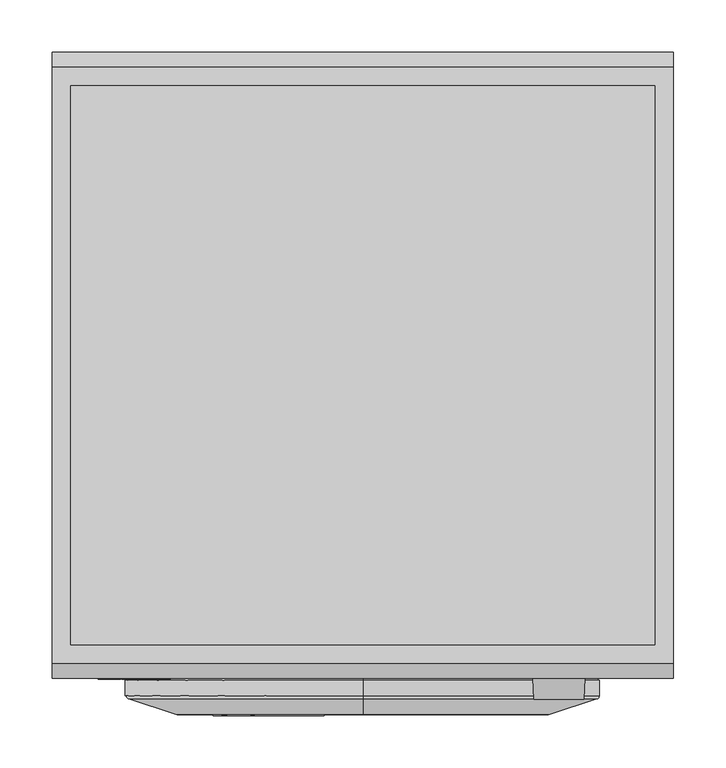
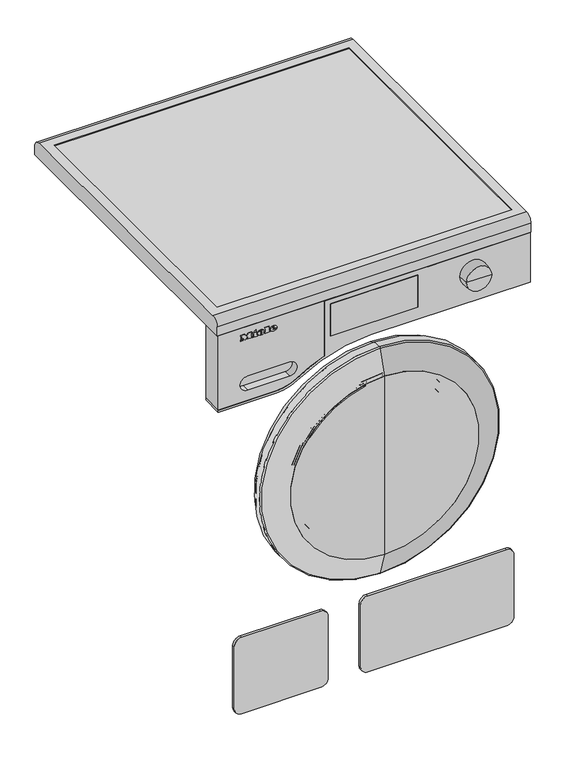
"""IFC4 building model written with IfcOpenShell, lengths in millimetres: proxy geometry, 12437440_A_WCB680WPS_LW : 11CB6803_A_12437440_WCB680WPS_LW."""

from ifc_helpers import new_model, si_unit, point, frame, frame_2d, origin, place, context, project, spatial, polyline, circle_curve, ellipse_curve, trimmed, segment, composite_curve, outline, extrude, source, transform, mapped, element, save
from ifc_brep_helpers import plane_surface, cylinder_surface, revolved_surface, extruded_surface, advanced_brep


def specialty_equipment_5d1bda56(model_context):
    return source(origin(), model_context, "Body", "SolidModel", [
        advanced_brep(
        [(-192.212, -601.0, 794.7018), (-192.212, -601.0, 795.8532), (-184.5854, -601.0, 795.8532), (-197.855, -601.0, 795.8532), (-194.72, -601.0, 792.0), (-184.7792, -601.0, 794.7018), (-188.222, -601.0, 794.7018), (-190.9352, -601.0, 793.425), (-192.212, -601.0, 797.3124), (-192.212, -601.0, 798.555), (-190.2626, -601.0, 798.555), (-190.2626, -601.0, 797.3124), (-192.212, -600.0, 794.7018), (-190.9352, -600.0, 793.425), (-188.222, -600.0, 794.7018), (-184.7792, -600.0, 794.7018), (-194.72, -600.0, 792.0), (-197.855, -600.0, 795.8532), (-184.5854, -600.0, 795.8532), (-192.212, -600.0, 795.8532), (-192.212, -600.0, 797.3124), (-190.2626, -600.0, 797.3124), (-190.2626, -600.0, 798.555), (-192.212, -600.0, 798.555)],
        [
            (0, 1),
            (1, 2),
            (2, 3, ellipse_curve(frame((-191.2202, -601.0, 795.8532), z_axis=(0.0, -1.0, 0.0), x_axis=(-1.0, 0.0, 0.0)), 6.6348, 5.4834)),
            (3, 4, circle_curve(frame((-193.4431378, -601.0, 796.2408), z_axis=(0.0, -1.0, 0.0), x_axis=(0.0, 0.0, -1.0)), 4.4288556)),
            (4, 5, circle_curve(frame((-191.3530192, -601.0, 799.2504), z_axis=(0.0, -1.0, 0.0), x_axis=(0.0, 0.0, -1.0)), 7.9940516)),
            (5, 6),
            (6, 7, circle_curve(frame((-190.3779412, -601.0, 795.762), z_axis=(0.0, 1.0, 0.0), x_axis=(0.0, 0.0, -1.0)), 2.4025208)),
            (7, 0, circle_curve(frame((-190.9352, -601.0, 794.7018), z_axis=(0.0, 1.0, 0.0), x_axis=(0.0, 0.0, -1.0)), 1.2768)),
            (8, 9),
            (9, 10, circle_curve(frame((-191.2373, -601.0, 798.555), z_axis=(0.0, 1.0, 0.0), x_axis=(0.0, 0.0, -1.0)), 0.9747)),
            (10, 11),
            (11, 8),
            (12, 13, circle_curve(frame((-190.9352, -600.0, 794.7018), z_axis=(0.0, -1.0, 0.0), x_axis=(0.0, 0.0, -1.0)), 1.2768)),
            (13, 14, circle_curve(frame((-190.3779412, -600.0, 795.762), z_axis=(0.0, -1.0, 0.0), x_axis=(0.0, 0.0, -1.0)), 2.4025208)),
            (14, 15),
            (15, 16, circle_curve(frame((-191.3530192, -600.0, 799.2504), z_axis=(0.0, 1.0, 0.0), x_axis=(0.0, 0.0, -1.0)), 7.9940516)),
            (16, 17, circle_curve(frame((-193.4431378, -600.0, 796.2408), z_axis=(0.0, 1.0, 0.0), x_axis=(0.0, 0.0, -1.0)), 4.4288556)),
            (17, 18, ellipse_curve(frame((-191.2202, -600.0, 795.8532), z_axis=(0.0, 1.0, 0.0), x_axis=(-1.0, 0.0, 0.0)), 6.6348, 5.4834)),
            (18, 19),
            (19, 12),
            (20, 21),
            (21, 22),
            (22, 23, circle_curve(frame((-191.2373, -600.0, 798.555), z_axis=(0.0, -1.0, 0.0), x_axis=(0.0, 0.0, -1.0)), 0.9747)),
            (23, 20),
            (0, 12),
            (19, 1),
            (18, 2),
            (5, 15),
            (14, 6),
            (17, 3),
            (13, 7),
            (16, 4),
            (8, 20),
            (23, 9),
            (22, 10),
            (21, 11),
        ],
        [
            plane_surface(frame((-192.212, -601.0, 795.8532), z_axis=(0.0, -1.0, 0.0), x_axis=(0.0, 0.0, 1.0))),
            plane_surface(frame((-192.212, -600.0, 795.8532), z_axis=(0.0, 1.0, 0.0), x_axis=(0.0, 0.0, -1.0))),
            plane_surface(frame((-192.212, -601.0, 794.7018), z_axis=(1.0, 0.0, 0.0), x_axis=(0.0, 1.0, 0.0))),
            plane_surface(frame((-192.212, -601.0, 795.8532), z_axis=(0.0, 0.0, -1.0), x_axis=(0.0, 1.0, 0.0))),
            plane_surface(frame((-184.7792, -601.0, 794.7018), z_axis=(0.0, 0.0, 1.0), x_axis=(0.0, 1.0, 0.0))),
            extruded_surface(trimmed(ellipse_curve(frame((-191.2202, -599.0, 795.8532), z_axis=(0.0, -1.0, 0.0), x_axis=(-1.0, 0.0, 0.0)), 6.6348, 5.4834), [point((-184.5854, -599.0, 795.8532))], [point((-197.855, -599.0, 795.8532))], True, "CARTESIAN"), (0.0, -1.0, 0.0), 1.0),
            revolved_surface(polyline([(-190.3779412, -600.0, 793.3594791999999), (-190.3779412, -601.0, 793.3594791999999)]), (-190.3779412, -600.0, 795.762), (0.0, 1.0, 0.0)),
            revolved_surface(polyline([(-190.9352, -600.0, 793.4250000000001), (-190.9352, -601.0, 793.4250000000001)]), (-190.9352, -600.0, 794.7018), (0.0, 1.0, 0.0)),
            cylinder_surface(frame((-193.4431378, -600.0, 796.2408), z_axis=(0.0, -1.0, 0.0), x_axis=(0.0, 0.0, -1.0)), 4.4288556),
            cylinder_surface(frame((-191.3530192, -600.0, 799.2504), z_axis=(0.0, -1.0, 0.0), x_axis=(0.0, 0.0, -1.0)), 7.9940516),
            plane_surface(frame((-192.212, -601.0, 797.3124), z_axis=(1.0, 0.0, 0.0), x_axis=(0.0, 1.0, 0.0))),
            revolved_surface(polyline([(-191.2373, -600.0, 797.5803), (-191.2373, -601.0, 797.5803)]), (-191.2373, -600.0, 798.555), (0.0, 1.0, 0.0)),
            plane_surface(frame((-190.2626, -601.0, 798.555), z_axis=(-1.0, 0.0, 0.0), x_axis=(0.0, 1.0, 0.0))),
            plane_surface(frame((-190.2626, -601.0, 797.3124), z_axis=(0.0, 0.0, 1.0), x_axis=(0.0, 1.0, 0.0))),
        ],
        [
            (0, [[1, 2, 3, 4, 5, 6, 7, 8], [9, 10, 11, 12]]),
            (1, [[13, 14, 15, 16, 17, 18, 19, 20], [21, 22, 23, 24]]),
            (2, [[-1, 25, -20, 26]]),
            (3, [[-2, -26, -19, 27]]),
            (4, [[-6, 28, -15, 29]]),
            (5, [[-3, -27, -18, 30]]),
            (6, [[-7, -29, -14, 31]]),
            (7, [[-8, -31, -13, -25]]),
            (8, [[-4, -30, -17, 32]]),
            (9, [[-5, -32, -16, -28]]),
            (10, [[-9, 33, -24, 34]]),
            (11, [[-10, -34, -23, 35]]),
            (12, [[-11, -35, -22, 36]]),
            (13, [[-12, -36, -21, -33]]),
        ],
    ),
        advanced_brep(
        [(-216.0038, -601.0, 794.7018), (-216.0038, -601.0, 795.8532), (-208.3772, -601.0, 795.8532), (-221.6468, -601.0, 795.8532), (-218.5118, -601.0, 792.0), (-208.571, -601.0, 794.7018), (-212.0138, -601.0, 794.7018), (-214.727, -601.0, 793.425), (-216.0038, -601.0, 797.3124), (-216.0038, -601.0, 798.555), (-214.0544, -601.0, 798.555), (-214.0544, -601.0, 797.3124), (-216.0038, -600.0, 794.7018), (-214.727, -600.0, 793.425), (-212.0138, -600.0, 794.7018), (-208.571, -600.0, 794.7018), (-218.5118, -600.0, 792.0), (-221.6468, -600.0, 795.8532), (-208.3772, -600.0, 795.8532), (-216.0038, -600.0, 795.8532), (-216.0038, -600.0, 797.3124), (-214.0544, -600.0, 797.3124), (-214.0544, -600.0, 798.555), (-216.0038, -600.0, 798.555)],
        [
            (0, 1),
            (1, 2),
            (2, 3, ellipse_curve(frame((-215.012, -601.0, 795.8532), z_axis=(0.0, -1.0, 0.0), x_axis=(-1.0, 0.0, 0.0)), 6.6348, 5.4834)),
            (3, 4, circle_curve(frame((-217.2349378, -601.0, 796.2408), z_axis=(0.0, -1.0, 0.0), x_axis=(0.0, 0.0, -1.0)), 4.4288556)),
            (4, 5, circle_curve(frame((-215.1448192, -601.0, 799.2504), z_axis=(0.0, -1.0, 0.0), x_axis=(0.0, 0.0, -1.0)), 7.9940516)),
            (5, 6),
            (6, 7, circle_curve(frame((-214.1697412, -601.0, 795.762), z_axis=(0.0, 1.0, 0.0), x_axis=(0.0, 0.0, -1.0)), 2.4025208)),
            (7, 0, circle_curve(frame((-214.727, -601.0, 794.7018), z_axis=(0.0, 1.0, 0.0), x_axis=(0.0, 0.0, -1.0)), 1.2768)),
            (8, 9),
            (9, 10, circle_curve(frame((-215.0291, -601.0, 798.555), z_axis=(0.0, 1.0, 0.0), x_axis=(0.0, 0.0, -1.0)), 0.9747)),
            (10, 11),
            (11, 8),
            (12, 13, circle_curve(frame((-214.727, -600.0, 794.7018), z_axis=(0.0, -1.0, 0.0), x_axis=(0.0, 0.0, -1.0)), 1.2768)),
            (13, 14, circle_curve(frame((-214.1697412, -600.0, 795.762), z_axis=(0.0, -1.0, 0.0), x_axis=(0.0, 0.0, -1.0)), 2.4025208)),
            (14, 15),
            (15, 16, circle_curve(frame((-215.1448192, -600.0, 799.2504), z_axis=(0.0, 1.0, 0.0), x_axis=(0.0, 0.0, -1.0)), 7.9940516)),
            (16, 17, circle_curve(frame((-217.2349378, -600.0, 796.2408), z_axis=(0.0, 1.0, 0.0), x_axis=(0.0, 0.0, -1.0)), 4.4288556)),
            (17, 18, ellipse_curve(frame((-215.012, -600.0, 795.8532), z_axis=(0.0, 1.0, 0.0), x_axis=(-1.0, 0.0, 0.0)), 6.6348, 5.4834)),
            (18, 19),
            (19, 12),
            (20, 21),
            (21, 22),
            (22, 23, circle_curve(frame((-215.0291, -600.0, 798.555), z_axis=(0.0, -1.0, 0.0), x_axis=(0.0, 0.0, -1.0)), 0.9747)),
            (23, 20),
            (0, 12),
            (19, 1),
            (18, 2),
            (5, 15),
            (14, 6),
            (17, 3),
            (13, 7),
            (16, 4),
            (8, 20),
            (23, 9),
            (22, 10),
            (21, 11),
        ],
        [
            plane_surface(frame((-216.0038, -601.0, 795.8532), z_axis=(0.0, -1.0, 0.0), x_axis=(0.0, 0.0, 1.0))),
            plane_surface(frame((-216.0038, -600.0, 795.8532), z_axis=(0.0, 1.0, 0.0), x_axis=(0.0, 0.0, -1.0))),
            plane_surface(frame((-216.0038, -601.0, 794.7018), z_axis=(1.0, 0.0, 0.0), x_axis=(0.0, 1.0, 0.0))),
            plane_surface(frame((-216.0038, -601.0, 795.8532), z_axis=(0.0, 0.0, -1.0), x_axis=(0.0, 1.0, 0.0))),
            plane_surface(frame((-208.571, -601.0, 794.7018), z_axis=(0.0, 0.0, 1.0), x_axis=(0.0, 1.0, 0.0))),
            extruded_surface(trimmed(ellipse_curve(frame((-215.012, -599.0, 795.8532), z_axis=(0.0, -1.0, 0.0), x_axis=(-1.0, 0.0, 0.0)), 6.6348, 5.4834), [point((-208.3772, -599.0, 795.8532))], [point((-221.6468, -599.0, 795.8532))], True, "CARTESIAN"), (0.0, -1.0, 0.0), 1.0),
            revolved_surface(polyline([(-214.1697412, -600.0, 793.3594791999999), (-214.1697412, -601.0, 793.3594791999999)]), (-214.1697412, -600.0, 795.762), (0.0, 1.0, 0.0)),
            revolved_surface(polyline([(-214.727, -600.0, 793.4250000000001), (-214.727, -601.0, 793.4250000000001)]), (-214.727, -600.0, 794.7018), (0.0, 1.0, 0.0)),
            cylinder_surface(frame((-217.2349378, -600.0, 796.2408), z_axis=(0.0, -1.0, 0.0), x_axis=(0.0, 0.0, -1.0)), 4.4288556),
            cylinder_surface(frame((-215.1448192, -600.0, 799.2504), z_axis=(0.0, -1.0, 0.0), x_axis=(0.0, 0.0, -1.0)), 7.9940516),
            plane_surface(frame((-216.0038, -601.0, 797.3124), z_axis=(1.0, 0.0, 0.0), x_axis=(0.0, 1.0, 0.0))),
            revolved_surface(polyline([(-215.0291, -600.0, 797.5803), (-215.0291, -601.0, 797.5803)]), (-215.0291, -600.0, 798.555), (0.0, 1.0, 0.0)),
            plane_surface(frame((-214.0544, -601.0, 798.555), z_axis=(-1.0, 0.0, 0.0), x_axis=(0.0, 1.0, 0.0))),
            plane_surface(frame((-214.0544, -601.0, 797.3124), z_axis=(0.0, 0.0, 1.0), x_axis=(0.0, 1.0, 0.0))),
        ],
        [
            (0, [[1, 2, 3, 4, 5, 6, 7, 8], [9, 10, 11, 12]]),
            (1, [[13, 14, 15, 16, 17, 18, 19, 20], [21, 22, 23, 24]]),
            (2, [[-1, 25, -20, 26]]),
            (3, [[-2, -26, -19, 27]]),
            (4, [[-6, 28, -15, 29]]),
            (5, [[-3, -27, -18, 30]]),
            (6, [[-7, -29, -14, 31]]),
            (7, [[-8, -31, -13, -25]]),
            (8, [[-4, -30, -17, 32]]),
            (9, [[-5, -32, -16, -28]]),
            (10, [[-9, 33, -24, 34]]),
            (11, [[-10, -34, -23, 35]]),
            (12, [[-11, -35, -22, 36]]),
            (13, [[-12, -36, -21, -33]]),
        ],
    ),
        extrude(outline(polyline([(802.7274, -228.464), (800.8806, -227.5976), (802.6818, -223.733), (804.5286, -224.588), (802.7274, -228.464)])), frame((0.0, -601.0, 0.0), z_axis=(0.0, 1.0, 0.0), x_axis=(0.0, 0.0, 1.0)), (0.0, 0.0, 1.0), 1.0),
        extrude(outline(polyline([(800.6298, -231.2798), (798.5892, -231.2798), (798.5892, -229.9232), (793.9152, -229.9232), (793.9152, -231.2798), (792.0, -231.2798), (792.0, -222.2852), (793.9152, -222.2852), (793.9152, -223.6076), (800.6298, -223.6076), (800.6298, -231.2798)])), frame((0.0, -601.0, 0.0), z_axis=(0.0, 1.0, 0.0), x_axis=(0.0, 0.0, 1.0)), (0.0, 0.0, 1.0), 1.0),
        extrude(outline(polyline([(801.5418, -207.7388), (801.5418, -206.3708), (793.9152, -206.3708), (793.9152, -207.7388), (792.0, -207.7388), (792.0, -198.4934), (793.9152, -198.4934), (793.9152, -199.8956), (803.4, -199.8956), (803.4, -207.7388), (801.5418, -207.7388)])), frame((0.0, -601.0, 0.0), z_axis=(0.0, 1.0, 0.0), x_axis=(0.0, 0.0, 1.0)), (0.0, 0.0, 1.0), 1.0),
        extrude(outline(polyline([(801.5418, -254.0), (801.5418, -252.6206), (793.9152, -252.6206), (793.9152, -254.0), (792.0, -254.0), (792.0, -248.984), (793.9152, -248.984), (793.9152, -250.352), (798.7429247, -250.352), (792.0, -245.2562), (798.9402223, -240.1376), (793.9152, -240.1376), (793.9152, -241.5398), (792.0, -241.5398), (792.0, -232.4426), (793.9152, -232.4426), (793.9152, -233.8904), (801.5418, -233.8904), (801.5418, -232.4426), (803.4, -232.4426), (803.4, -239.3852), (799.125, -242.714), (803.4, -246.0542), (803.4, -254.0), (801.5418, -254.0)])), frame((0.0, -601.0, 0.0), z_axis=(0.0, 1.0, 0.0), x_axis=(0.0, 0.0, 1.0)), (0.0, 0.0, 1.0), 1.0),
        extrude(outline(composite_curve([segment(trimmed(circle_curve(frame_2d((475.0, 0.0)), 179.0077488), [point((650.0572384, -37.3996979))], [point((581.8669772, -143.6078804))], False, "CARTESIAN"), True, "CONTINUOUS"), segment(polyline([(581.8669772, -143.6078804), (580.6729844, -142.0033925)]), True, "CONTINUOUS"), segment(trimmed(circle_curve(frame_2d((475.0, 0.0)), 177.0077488), [point((580.6729844, -142.0033925))], [point((648.1013763, -36.9818423))], True, "CARTESIAN"), True, "CONTINUOUS"), segment(polyline([(648.1013763, -36.9818423), (650.0572384, -37.3996979)]), True, "CONTINUOUS")], self_intersect=False)), frame((0.0, -636.0, 0.0), z_axis=(0.0, 1.0, 0.0), x_axis=(0.0, 0.0, 1.0)), (0.0, 0.0, 1.0), 1.0),
        advanced_brep(
        [(0.0, -635.0, 296.0), (0.0, -635.0, 654.0), (0.0, -630.9005671, 650.4364173), (0.0, -630.9005671, 299.5635827), (0.0, -635.0, 475.0), (0.0, -589.0, 326.0), (0.0, -589.0, 624.0), (0.0, -589.0, 475.0), (0.0, -592.0, 326.0), (0.0, -592.0, 624.0), (0.0, -592.0, 313.0), (0.0, -592.0, 637.0), (0.0, -610.8709778, 313.0), (0.0, -610.8709778, 637.0), (0.0, -628.93239, 297.2994539), (0.0, -628.93239, 652.7005461)],
        [
            (0, 1, circle_curve(frame((0.0, -635.0, 475.0), z_axis=(0.0, 1.0, 0.0), x_axis=(0.0, 0.0, 1.0)), 179.0)),
            (1, 2),
            (2, 3, circle_curve(frame((0.0, -630.9005671, 475.0), z_axis=(0.0, -1.0, 0.0), x_axis=(0.0, 0.0, 1.0)), 175.4364173)),
            (3, 0),
            (1, 0, circle_curve(frame((0.0, -635.0, 475.0), z_axis=(0.0, 1.0, 0.0), x_axis=(0.0, 0.0, 1.0)), 179.0)),
            (3, 2, circle_curve(frame((0.0, -630.9005671, 475.0), z_axis=(0.0, -1.0, 0.0), x_axis=(0.0, 0.0, 1.0)), 175.4364173)),
            (4, 1),
            (0, 4),
            (5, 6, circle_curve(frame((0.0, -589.0, 475.0), z_axis=(0.0, 1.0, 0.0), x_axis=(0.0, 0.0, 1.0)), 149.0)),
            (6, 7),
            (7, 5),
            (6, 5, circle_curve(frame((0.0, -589.0, 475.0), z_axis=(0.0, 1.0, 0.0), x_axis=(0.0, 0.0, 1.0)), 149.0)),
            (8, 9, circle_curve(frame((0.0, -592.0, 475.0), z_axis=(0.0, 1.0, 0.0), x_axis=(0.0, 0.0, 1.0)), 149.0)),
            (9, 6),
            (5, 8),
            (9, 8, circle_curve(frame((0.0, -592.0, 475.0), z_axis=(0.0, 1.0, 0.0), x_axis=(0.0, 0.0, 1.0)), 149.0)),
            (10, 11, circle_curve(frame((0.0, -592.0, 475.0), z_axis=(0.0, 1.0, 0.0), x_axis=(0.0, 0.0, 1.0)), 162.0)),
            (11, 9),
            (8, 10),
            (11, 10, circle_curve(frame((0.0, -592.0, 475.0), z_axis=(0.0, 1.0, 0.0), x_axis=(0.0, 0.0, 1.0)), 162.0)),
            (12, 13, circle_curve(frame((0.0, -610.8709778, 475.0), z_axis=(0.0, 1.0, 0.0), x_axis=(0.0, 0.0, 1.0)), 162.0)),
            (13, 11),
            (10, 12),
            (13, 12, circle_curve(frame((0.0, -610.8709778, 475.0), z_axis=(0.0, 1.0, 0.0), x_axis=(0.0, 0.0, 1.0)), 162.0)),
            (14, 15, circle_curve(frame((0.0, -628.93239, 475.0), z_axis=(0.0, 1.0, 0.0), x_axis=(0.0, 0.0, 1.0)), 177.7005461)),
            (15, 13),
            (12, 14),
            (15, 14, circle_curve(frame((0.0, -628.93239, 475.0), z_axis=(0.0, 1.0, 0.0), x_axis=(0.0, 0.0, 1.0)), 177.7005461)),
            (2, 15),
            (14, 3),
        ],
        [
            revolved_surface(polyline([(0.0, -630.9005671, 650.4364173), (0.0, -635.0, 654.0)]), (0.0, -2342.7556811, 475.0), (0.0, -1.0, 0.0)),
            plane_surface(frame((0.0, -635.0, 475.0), z_axis=(0.0, -1.0, 0.0), x_axis=(0.0, 0.0, 1.0))),
            plane_surface(frame((0.0, -589.0, 475.0), z_axis=(0.0, 1.0, 0.0), x_axis=(0.0, 0.0, 1.0))),
            cylinder_surface(frame((0.0, -2342.7556811, 475.0), z_axis=(0.0, -1.0, 0.0), x_axis=(0.0, 0.0, 1.0)), 149.0),
            plane_surface(frame((0.0, -592.0, 475.0), z_axis=(0.0, 1.0, 0.0), x_axis=(0.0, 0.0, 1.0))),
            cylinder_surface(frame((0.0, -2342.7556811, 475.0), z_axis=(0.0, -1.0, 0.0), x_axis=(0.0, 0.0, 1.0)), 162.0),
            revolved_surface(polyline([(0.0, -610.8709778, 637.0), (0.0, -628.93239, 652.7005461)]), (0.0, -2342.7556811, 475.0), (0.0, -1.0, 0.0)),
            revolved_surface(polyline([(0.0, -628.93239, 652.7005461), (0.0, -630.9005671, 650.4364173)]), (0.0, -2342.7556811, 475.0), (0.0, -1.0, 0.0)),
        ],
        [
            (0, [[1, 2, 3, 4]]),
            (0, [[5, -4, 6, -2]]),
            (1, [[7, -1, 8]]),
            (1, [[-8, -5, -7]]),
            (2, [[9, 10, 11]]),
            (2, [[12, -11, -10]]),
            (3, [[13, 14, -9, 15]]),
            (3, [[16, -15, -12, -14]]),
            (4, [[17, 18, -13, 19]]),
            (4, [[20, -19, -16, -18]]),
            (5, [[21, 22, -17, 23]]),
            (5, [[24, -23, -20, -22]]),
            (6, [[25, 26, -21, 27]]),
            (6, [[28, -27, -24, -26]]),
            (7, [[-3, 29, -25, 30]]),
            (7, [[-6, -30, -28, -29]]),
        ],
    ),
        advanced_brep(
        [(0.0, -589.0, 254.0), (0.0, -589.0, 696.0), (0.0, -589.0, 624.0), (0.0, -589.0, 326.0), (0.0, -602.0, 248.0), (0.0, -602.0, 702.0), (0.0, -602.0, 313.0), (0.0, -602.0, 637.0), (0.0, -592.0, 313.0), (0.0, -592.0, 637.0), (0.0, -592.0, 326.0), (0.0, -592.0, 624.0)],
        [
            (0, 1, circle_curve(frame((0.0, -589.0, 475.0), z_axis=(0.0, 1.0, 0.0), x_axis=(0.0, 0.0, 1.0)), 221.0)),
            (1, 2),
            (2, 3, circle_curve(frame((0.0, -589.0, 475.0), z_axis=(0.0, -1.0, 0.0), x_axis=(0.0, 0.0, 1.0)), 149.0)),
            (3, 0),
            (1, 0, circle_curve(frame((0.0, -589.0, 475.0), z_axis=(0.0, 1.0, 0.0), x_axis=(0.0, 0.0, 1.0)), 221.0)),
            (3, 2, circle_curve(frame((0.0, -589.0, 475.0), z_axis=(0.0, -1.0, 0.0), x_axis=(0.0, 0.0, 1.0)), 149.0)),
            (4, 5, circle_curve(frame((0.0, -602.0, 475.0), z_axis=(0.0, 1.0, 0.0), x_axis=(0.0, 0.0, 1.0)), 227.0)),
            (5, 1),
            (0, 4),
            (5, 4, circle_curve(frame((0.0, -602.0, 475.0), z_axis=(0.0, 1.0, 0.0), x_axis=(0.0, 0.0, 1.0)), 227.0)),
            (6, 7, circle_curve(frame((0.0, -602.0, 475.0), z_axis=(0.0, 1.0, 0.0), x_axis=(0.0, 0.0, 1.0)), 162.0)),
            (7, 5),
            (4, 6),
            (7, 6, circle_curve(frame((0.0, -602.0, 475.0), z_axis=(0.0, 1.0, 0.0), x_axis=(0.0, 0.0, 1.0)), 162.0)),
            (8, 9, circle_curve(frame((0.0, -592.0, 475.0), z_axis=(0.0, 1.0, 0.0), x_axis=(0.0, 0.0, 1.0)), 162.0)),
            (9, 7),
            (6, 8),
            (9, 8, circle_curve(frame((0.0, -592.0, 475.0), z_axis=(0.0, 1.0, 0.0), x_axis=(0.0, 0.0, 1.0)), 162.0)),
            (10, 11, circle_curve(frame((0.0, -592.0, 475.0), z_axis=(0.0, 1.0, 0.0), x_axis=(0.0, 0.0, 1.0)), 149.0)),
            (11, 9),
            (8, 10),
            (11, 10, circle_curve(frame((0.0, -592.0, 475.0), z_axis=(0.0, 1.0, 0.0), x_axis=(0.0, 0.0, 1.0)), 149.0)),
            (2, 11),
            (10, 3),
        ],
        [
            plane_surface(frame((0.0, -589.0, 475.0), z_axis=(0.0, 1.0, 0.0), x_axis=(0.0, 0.0, 1.0))),
            revolved_surface(polyline([(0.0, -589.0, 696.0), (0.0, -602.0, 702.0)]), (0.0, -2342.7556811, 475.0), (0.0, -1.0, 0.0)),
            plane_surface(frame((0.0, -602.0, 475.0), z_axis=(0.0, -1.0, 0.0), x_axis=(0.0, 0.0, 1.0))),
            revolved_surface(polyline([(0.0, -602.0, 637.0), (0.0, -592.0, 637.0)]), (0.0, -2342.7556811, 475.0), (0.0, -1.0, 0.0)),
            plane_surface(frame((0.0, -592.0, 475.0), z_axis=(0.0, -1.0, 0.0), x_axis=(0.0, 0.0, 1.0))),
            revolved_surface(polyline([(0.0, -592.0, 624.0), (0.0, -589.0, 624.0)]), (0.0, -2342.7556811, 475.0), (0.0, -1.0, 0.0)),
        ],
        [
            (0, [[1, 2, 3, 4]]),
            (0, [[5, -4, 6, -2]]),
            (1, [[7, 8, -1, 9]]),
            (1, [[10, -9, -5, -8]]),
            (2, [[11, 12, -7, 13]]),
            (2, [[14, -13, -10, -12]]),
            (3, [[15, 16, -11, 17]]),
            (3, [[18, -17, -14, -16]]),
            (4, [[19, 20, -15, 21]]),
            (4, [[22, -21, -18, -20]]),
            (5, [[-3, 23, -19, 24]]),
            (5, [[-6, -24, -22, -23]]),
        ],
    ),
        advanced_brep(
        [(0.0, -628.93239, 297.2994539), (0.0, -628.93239, 652.7005461), (0.0, -626.9642129, 654.9646748), (0.0, -626.9642129, 295.0353252), (0.0, -610.8709778, 313.0), (0.0, -610.8709778, 637.0), (0.0, -602.0, 313.0), (0.0, -602.0, 637.0), (0.0, -609.7493238, 640.0), (0.0, -609.7493238, 310.0), (0.0, -602.0, 310.0), (0.0, -602.0, 640.0)],
        [
            (0, 1, circle_curve(frame((0.0, -628.93239, 475.0), z_axis=(0.0, 1.0, 0.0), x_axis=(0.0, 0.0, 1.0)), 177.7005461)),
            (1, 2),
            (2, 3, circle_curve(frame((0.0, -626.9642129, 475.0), z_axis=(0.0, -1.0, 0.0), x_axis=(0.0, 0.0, 1.0)), 179.9646748)),
            (3, 0),
            (1, 0, circle_curve(frame((0.0, -628.93239, 475.0), z_axis=(0.0, 1.0, 0.0), x_axis=(0.0, 0.0, 1.0)), 177.7005461)),
            (3, 2, circle_curve(frame((0.0, -626.9642129, 475.0), z_axis=(0.0, -1.0, 0.0), x_axis=(0.0, 0.0, 1.0)), 179.9646748)),
            (4, 5, circle_curve(frame((0.0, -610.8709778, 475.0), z_axis=(0.0, 1.0, 0.0), x_axis=(0.0, 0.0, 1.0)), 162.0)),
            (5, 1),
            (0, 4),
            (5, 4, circle_curve(frame((0.0, -610.8709778, 475.0), z_axis=(0.0, 1.0, 0.0), x_axis=(0.0, 0.0, 1.0)), 162.0)),
            (6, 7, circle_curve(frame((0.0, -602.0, 475.0), z_axis=(0.0, 1.0, 0.0), x_axis=(0.0, 0.0, 1.0)), 162.0)),
            (7, 5),
            (4, 6),
            (7, 6, circle_curve(frame((0.0, -602.0, 475.0), z_axis=(0.0, 1.0, 0.0), x_axis=(0.0, 0.0, 1.0)), 162.0)),
            (2, 8),
            (8, 9, circle_curve(frame((0.0, -609.7493238, 475.0), z_axis=(0.0, -1.0, 0.0), x_axis=(0.0, 0.0, 1.0)), 165.0)),
            (9, 3),
            (9, 8, circle_curve(frame((0.0, -609.7493238, 475.0), z_axis=(0.0, -1.0, 0.0), x_axis=(0.0, 0.0, 1.0)), 165.0)),
            (10, 11, circle_curve(frame((0.0, -602.0, 475.0), z_axis=(0.0, 1.0, 0.0), x_axis=(0.0, 0.0, 1.0)), 165.0)),
            (11, 7),
            (6, 10),
            (11, 10, circle_curve(frame((0.0, -602.0, 475.0), z_axis=(0.0, 1.0, 0.0), x_axis=(0.0, 0.0, 1.0)), 165.0)),
            (8, 11),
            (10, 9),
        ],
        [
            revolved_surface(polyline([(0.0, -626.9642129, 654.9646748), (0.0, -628.93239, 652.7005461)]), (0.0, -2342.7556811, 475.0), (0.0, -1.0, 0.0)),
            revolved_surface(polyline([(0.0, -628.93239, 652.7005461), (0.0, -610.8709778, 637.0)]), (0.0, -2342.7556811, 475.0), (0.0, -1.0, 0.0)),
            revolved_surface(polyline([(0.0, -610.8709778, 637.0), (0.0, -602.0, 637.0)]), (0.0, -2342.7556811, 475.0), (0.0, -1.0, 0.0)),
            revolved_surface(polyline([(0.0, -609.7493238, 640.0), (0.0, -626.9642129, 654.9646748)]), (0.0, -2342.7556811, 475.0), (0.0, -1.0, 0.0)),
            plane_surface(frame((0.0, -602.0, 475.0), z_axis=(0.0, 1.0, 0.0), x_axis=(0.0, 0.0, 1.0))),
            cylinder_surface(frame((0.0, -2342.7556811, 475.0), z_axis=(0.0, -1.0, 0.0), x_axis=(0.0, 0.0, 1.0)), 165.0),
        ],
        [
            (0, [[1, 2, 3, 4]]),
            (0, [[5, -4, 6, -2]]),
            (1, [[7, 8, -1, 9]]),
            (1, [[10, -9, -5, -8]]),
            (2, [[11, 12, -7, 13]]),
            (2, [[14, -13, -10, -12]]),
            (3, [[-3, 15, 16, 17]]),
            (3, [[-6, -17, 18, -15]]),
            (4, [[19, 20, -11, 21]]),
            (4, [[22, -21, -14, -20]]),
            (5, [[-16, 23, -19, 24]]),
            (5, [[-18, -24, -22, -23]]),
        ],
    ),
        advanced_brep(
        [(0.0, -616.8993073, 247.0), (0.0, -616.8993073, 703.0), (0.0, -602.0, 703.0), (0.0, -602.0, 247.0), (0.0, -619.7524768, 249.072949), (0.0, -619.7524768, 700.927051), (0.0, -635.0, 296.0), (0.0, -635.0, 654.0), (0.0, -630.9005671, 299.5635827), (0.0, -630.9005671, 650.4364173), (0.0, -626.9642129, 295.0353252), (0.0, -626.9642129, 654.9646748), (0.0, -609.7493238, 310.0), (0.0, -609.7493238, 640.0), (0.0, -602.0, 640.0), (0.0, -602.0, 310.0)],
        [
            (0, 1, circle_curve(frame((0.0, -616.8993073, 475.0), z_axis=(0.0, 1.0, 0.0), x_axis=(0.0, 0.0, 1.0)), 228.0)),
            (1, 2),
            (2, 3, circle_curve(frame((0.0, -602.0, 475.0), z_axis=(0.0, -1.0, 0.0), x_axis=(0.0, 0.0, 1.0)), 228.0)),
            (3, 0),
            (1, 0, circle_curve(frame((0.0, -616.8993073, 475.0), z_axis=(0.0, 1.0, 0.0), x_axis=(0.0, 0.0, 1.0)), 228.0)),
            (3, 2, circle_curve(frame((0.0, -602.0, 475.0), z_axis=(0.0, -1.0, 0.0), x_axis=(0.0, 0.0, 1.0)), 228.0)),
            (4, 5, circle_curve(frame((0.0, -619.7524768, 475.0), z_axis=(0.0, 1.0, 0.0), x_axis=(0.0, 0.0, 1.0)), 225.927051)),
            (5, 1, circle_curve(frame((0.0, -616.8993073, 700.0), z_axis=(-1.0, 0.0, 0.0), x_axis=(0.0, 1.0, 0.0)), 3.0)),
            (0, 4, circle_curve(frame((0.0, -616.8993073, 250.0), z_axis=(-1.0, 0.0, 0.0), x_axis=(0.0, 1.0, 0.0)), 3.0)),
            (5, 4, circle_curve(frame((0.0, -619.7524768, 475.0), z_axis=(0.0, 1.0, 0.0), x_axis=(0.0, 0.0, 1.0)), 225.927051)),
            (6, 7, circle_curve(frame((0.0, -635.0, 475.0), z_axis=(0.0, 1.0, 0.0), x_axis=(0.0, 0.0, 1.0)), 179.0)),
            (7, 5),
            (4, 6),
            (7, 6, circle_curve(frame((0.0, -635.0, 475.0), z_axis=(0.0, 1.0, 0.0), x_axis=(0.0, 0.0, 1.0)), 179.0)),
            (8, 9, circle_curve(frame((0.0, -630.9005671, 475.0), z_axis=(0.0, 1.0, 0.0), x_axis=(0.0, 0.0, 1.0)), 175.4364173)),
            (9, 7),
            (6, 8),
            (9, 8, circle_curve(frame((0.0, -630.9005671, 475.0), z_axis=(0.0, 1.0, 0.0), x_axis=(0.0, 0.0, 1.0)), 175.4364173)),
            (10, 11, circle_curve(frame((0.0, -626.9642129, 475.0), z_axis=(0.0, 1.0, 0.0), x_axis=(0.0, 0.0, 1.0)), 179.9646748)),
            (11, 9),
            (8, 10),
            (11, 10, circle_curve(frame((0.0, -626.9642129, 475.0), z_axis=(0.0, 1.0, 0.0), x_axis=(0.0, 0.0, 1.0)), 179.9646748)),
            (12, 13, circle_curve(frame((0.0, -609.7493238, 475.0), z_axis=(0.0, 1.0, 0.0), x_axis=(0.0, 0.0, 1.0)), 165.0)),
            (13, 11),
            (10, 12),
            (13, 12, circle_curve(frame((0.0, -609.7493238, 475.0), z_axis=(0.0, 1.0, 0.0), x_axis=(0.0, 0.0, 1.0)), 165.0)),
            (2, 14),
            (14, 15, circle_curve(frame((0.0, -602.0, 475.0), z_axis=(0.0, -1.0, 0.0), x_axis=(0.0, 0.0, 1.0)), 165.0)),
            (15, 3),
            (15, 14, circle_curve(frame((0.0, -602.0, 475.0), z_axis=(0.0, -1.0, 0.0), x_axis=(0.0, 0.0, 1.0)), 165.0)),
            (14, 13),
            (12, 15),
        ],
        [
            cylinder_surface(frame((0.0, -2342.7556811, 475.0), z_axis=(0.0, -1.0, 0.0), x_axis=(0.0, 0.0, 1.0)), 228.0),
            revolved_surface(trimmed(ellipse_curve(frame((0.0, -616.8993073, 700.0), z_axis=(1.0, 0.0, 0.0), x_axis=(0.0, 1.0, 0.0)), 3.0, 3.0), [point((0.0, -616.8993073, 703.0))], [point((0.0, -619.7524768, 700.927051))], True, "CARTESIAN"), (0.0, -2342.7556811, 475.0), (0.0, -1.0, 0.0)),
            revolved_surface(polyline([(0.0, -619.7524768, 700.927051), (0.0, -635.0, 654.0)]), (0.0, -2342.7556811, 475.0), (0.0, -1.0, 0.0)),
            revolved_surface(polyline([(0.0, -635.0, 654.0), (0.0, -630.9005671, 650.4364173)]), (0.0, -2342.7556811, 475.0), (0.0, -1.0, 0.0)),
            revolved_surface(polyline([(0.0, -630.9005671, 650.4364173), (0.0, -626.9642129, 654.9646748)]), (0.0, -2342.7556811, 475.0), (0.0, -1.0, 0.0)),
            revolved_surface(polyline([(0.0, -626.9642129, 654.9646748), (0.0, -609.7493238, 640.0)]), (0.0, -2342.7556811, 475.0), (0.0, -1.0, 0.0)),
            plane_surface(frame((0.0, -602.0, 475.0), z_axis=(0.0, 1.0, 0.0), x_axis=(0.0, 0.0, 1.0))),
            revolved_surface(polyline([(0.0, -609.7493238, 640.0), (0.0, -602.0, 640.0)]), (0.0, -2342.7556811, 475.0), (0.0, -1.0, 0.0)),
        ],
        [
            (0, [[1, 2, 3, 4]]),
            (0, [[5, -4, 6, -2]]),
            (1, [[7, 8, -1, 9]]),
            (1, [[10, -9, -5, -8]]),
            (2, [[11, 12, -7, 13]]),
            (2, [[14, -13, -10, -12]]),
            (3, [[15, 16, -11, 17]]),
            (3, [[18, -17, -14, -16]]),
            (4, [[19, 20, -15, 21]]),
            (4, [[22, -21, -18, -20]]),
            (5, [[23, 24, -19, 25]]),
            (5, [[26, -25, -22, -24]]),
            (6, [[-3, 27, 28, 29]]),
            (6, [[-6, -29, 30, -27]]),
            (7, [[-28, 31, -23, 32]]),
            (7, [[-30, -32, -26, -31]]),
        ],
    ),
        advanced_brep(
        [(188.0, -600.0, 775.0), (213.0, -600.0, 775.0), (163.0, -600.0, 775.0), (164.0481556, -620.0, 775.0), (211.9518444, -620.0, 775.0), (188.0, -620.0, 775.0)],
        [
            (0, 1),
            (1, 2, circle_curve(frame((188.0, -600.0, 775.0), z_axis=(0.0, 1.0, 0.0), x_axis=(1.0, 0.0, 0.0)), 25.0)),
            (2, 0),
            (2, 1, circle_curve(frame((188.0, -600.0, 775.0), z_axis=(0.0, 1.0, 0.0), x_axis=(1.0, 0.0, 0.0)), 25.0)),
            (3, 4, circle_curve(frame((188.0, -620.0, 775.0), z_axis=(0.0, -1.0, 0.0), x_axis=(1.0, 0.0, 0.0)), 23.9518444)),
            (4, 5),
            (5, 3),
            (4, 3, circle_curve(frame((188.0, -620.0, 775.0), z_axis=(0.0, -1.0, 0.0), x_axis=(1.0, 0.0, 0.0)), 23.9518444)),
            (1, 4),
            (3, 2),
        ],
        [
            plane_surface(frame((188.0, -600.0, 775.0), z_axis=(0.0, 1.0, 0.0), x_axis=(1.0, 0.0, 0.0))),
            plane_surface(frame((188.0, -620.0, 775.0), z_axis=(0.0, -1.0, 0.0), x_axis=(1.0, 0.0, 0.0))),
            revolved_surface(polyline([(211.9518444, -620.0, 775.0), (213.0, -600.0, 775.0)]), (188.0, -429.2290526, 775.0), (0.0, 1.0, 0.0)),
        ],
        [
            (0, [[1, 2, 3]]),
            (0, [[-3, 4, -1]]),
            (1, [[5, 6, 7]]),
            (1, [[8, -7, -6]]),
            (2, [[-2, 9, -5, 10]]),
            (2, [[-4, -10, -8, -9]]),
        ],
    ),
        advanced_brep(
        [(298.0, -585.5, 850.0), (298.0, -600.0, 835.5), (298.0, -600.0, 818.0), (298.0, 0.0, 818.0), (298.0, 0.0, 835.5), (298.0, -14.5, 850.0), (-298.0, -585.5, 850.0), (-298.0, -14.5, 850.0), (-298.0, 0.0, 835.5), (-298.0, 0.0, 818.0), (-298.0, -600.0, 818.0), (-298.0, -600.0, 835.5), (-280.0, -32.0, 850.0), (280.0, -32.0, 850.0), (280.0, -568.0, 850.0), (-280.0, -568.0, 850.0), (280.0, -32.0, 848.0), (-280.0, -32.0, 848.0), (-280.0, -568.0, 848.0), (280.0, -568.0, 848.0)],
        [
            (0, 1, circle_curve(frame((298.0, -585.5, 835.5), z_axis=(1.0, 0.0, 0.0), x_axis=(0.0, 0.0, -1.0)), 14.5)),
            (1, 2),
            (2, 3),
            (3, 4),
            (4, 5, circle_curve(frame((298.0, -14.5, 835.5), z_axis=(1.0, 0.0, 0.0), x_axis=(0.0, 0.0, -1.0)), 14.5)),
            (5, 0),
            (6, 7),
            (7, 8, circle_curve(frame((-298.0, -14.5, 835.5), z_axis=(-1.0, 0.0, 0.0), x_axis=(0.0, 0.0, -1.0)), 14.5)),
            (8, 9),
            (9, 10),
            (10, 11),
            (11, 6, circle_curve(frame((-298.0, -585.5, 835.5), z_axis=(-1.0, 0.0, 0.0), x_axis=(0.0, 0.0, -1.0)), 14.5)),
            (5, 7),
            (6, 0),
            (12, 13),
            (13, 14),
            (14, 15),
            (15, 12),
            (4, 8),
            (3, 9),
            (2, 10),
            (1, 11),
            (16, 17),
            (17, 18),
            (18, 19),
            (19, 16),
            (16, 13),
            (12, 17),
            (15, 18),
            (14, 19),
        ],
        [
            plane_surface(frame((298.0, -585.5, 850.0), z_axis=(1.0, 0.0, 0.0), x_axis=(0.0, -1.0, 0.0))),
            plane_surface(frame((-298.0, -585.5, 850.0), z_axis=(-1.0, 0.0, 0.0), x_axis=(0.0, 1.0, 0.0))),
            plane_surface(frame((-298.0, -585.5, 850.0), z_axis=(0.0, 0.0, 1.0), x_axis=(1.0, 0.0, 0.0))),
            cylinder_surface(frame((298.0, -14.5, 835.5), z_axis=(-1.0, 0.0, 0.0), x_axis=(0.0, 0.0, -1.0)), 14.5),
            plane_surface(frame((-298.0, 0.0, 835.5), z_axis=(0.0, 1.0, 0.0), x_axis=(1.0, 0.0, 0.0))),
            plane_surface(frame((-298.0, 0.0, 818.0), z_axis=(0.0, 0.0, -1.0), x_axis=(1.0, 0.0, 0.0))),
            plane_surface(frame((-298.0, -600.0, 818.0), z_axis=(0.0, -1.0, 0.0), x_axis=(1.0, 0.0, 0.0))),
            cylinder_surface(frame((298.0, -585.5, 835.5), z_axis=(-1.0, 0.0, 0.0), x_axis=(0.0, 0.0, -1.0)), 14.5),
            plane_surface(frame((-179.0425004, -32.0, 848.0), z_axis=(0.0, 0.0, 1.0), x_axis=(1.0, 0.0, 0.0))),
            plane_surface(frame((280.0, -32.0, 850.0), z_axis=(0.0, -1.0, 0.0), x_axis=(0.0, 0.0, -1.0))),
            plane_surface(frame((-280.0, -32.0, 850.0), z_axis=(1.0, 0.0, 0.0), x_axis=(0.0, 0.0, -1.0))),
            plane_surface(frame((-280.0, -568.0, 850.0), z_axis=(0.0, 1.0, 0.0), x_axis=(0.0, 0.0, -1.0))),
            plane_surface(frame((280.0, -568.0, 850.0), z_axis=(-1.0, 0.0, 0.0), x_axis=(0.0, 0.0, -1.0))),
        ],
        [
            (0, [[1, 2, 3, 4, 5, 6]]),
            (1, [[7, 8, 9, 10, 11, 12]]),
            (2, [[-6, 13, -7, 14], [15, 16, 17, 18]]),
            (3, [[-5, 19, -8, -13]]),
            (4, [[-4, 20, -9, -19]]),
            (5, [[-3, 21, -10, -20]]),
            (6, [[-2, 22, -11, -21]]),
            (7, [[-1, -14, -12, -22]]),
            (8, [[23, 24, 25, 26]]),
            (9, [[-23, 27, -15, 28]]),
            (10, [[-24, -28, -18, 29]]),
            (11, [[-25, -29, -17, 30]]),
            (12, [[-26, -30, -16, -27]]),
        ],
    ),
        extrude(outline(polyline([(-83.0, -570.0), (83.0, -570.0), (83.0, -600.0), (-83.0, -600.0), (-83.0, -570.0)])), frame((0.0, 0.0, 742.0), z_axis=(0.0, 0.0, 1.0), x_axis=(1.0, 0.0, 0.0)), (0.0, 0.0, 1.0), 65.0),
        advanced_brep(
        [(-296.5, -600.0, 664.0), (-185.7266361, -600.0, 664.0), (-145.1722991, -600.0, 675.3673121), (-5.7577941, -600.0, 718.0), (296.5, -600.0, 718.0), (296.5, -600.0, 817.0), (-94.5, -600.0, 817.0), (-94.5, -600.0, 705.9439484), (-147.3302559, -600.0, 678.7366161), (-185.7266361, -600.0, 668.0), (-296.5, -600.0, 668.0), (83.0, -600.0, 807.0), (83.0, -600.0, 742.0), (-83.0, -600.0, 742.0), (-83.0, -600.0, 807.0), (296.5, -560.0, 817.0), (296.5, -560.0, 718.0), (-5.7577941, -560.0, 718.0), (-145.1722991, -560.0, 675.3673121), (-185.7266361, -560.0, 664.0), (-296.5, -560.0, 664.0), (-296.5, -560.0, 668.0), (-185.7266361, -560.0, 668.0), (-147.3302559, -560.0, 678.7366161), (-94.5, -560.0, 705.9439484), (-94.5, -560.0, 817.0), (83.0, -570.0, 807.0), (-83.0, -570.0, 807.0), (-83.0, -570.0, 742.0), (83.0, -570.0, 742.0)],
        [
            (0, 1),
            (1, 2, circle_curve(frame((-185.7266361, -600.0, 742.0250428), z_axis=(0.0, -1.0, 0.0), x_axis=(-1.0, 0.0, 0.0)), 78.0250428)),
            (2, 3, circle_curve(frame((-5.7577941, -600.0, 468.7317583), z_axis=(0.0, 1.0, 0.0), x_axis=(-1.0, 0.0, 0.0)), 249.2682417)),
            (3, 4),
            (4, 5),
            (5, 6),
            (6, 7),
            (7, 8, circle_curve(frame((-5.7577941, -600.0, 468.7317583), z_axis=(0.0, -1.0, 0.0), x_axis=(-1.0, 0.0, 0.0)), 253.2682417)),
            (8, 9, circle_curve(frame((-185.7266361, -600.0, 742.0250428), z_axis=(0.0, 1.0, 0.0), x_axis=(-1.0, 0.0, 0.0)), 74.0250428)),
            (9, 10),
            (10, 0),
            (11, 12),
            (12, 13),
            (13, 14),
            (14, 11),
            (15, 16),
            (16, 17),
            (17, 18, circle_curve(frame((-5.7577941, -560.0, 468.7317583), z_axis=(0.0, -1.0, 0.0), x_axis=(-1.0, 0.0, 0.0)), 249.2682417)),
            (18, 19, circle_curve(frame((-185.7266361, -560.0, 742.0250428), z_axis=(0.0, 1.0, 0.0), x_axis=(-1.0, 0.0, 0.0)), 78.0250428)),
            (19, 20),
            (20, 21),
            (21, 22),
            (22, 23, circle_curve(frame((-185.7266361, -560.0, 742.0250428), z_axis=(0.0, -1.0, 0.0), x_axis=(-1.0, 0.0, 0.0)), 74.0250428)),
            (23, 24, circle_curve(frame((-5.7577941, -560.0, 468.7317583), z_axis=(0.0, 1.0, 0.0), x_axis=(-1.0, 0.0, 0.0)), 253.2682417)),
            (24, 25),
            (25, 15),
            (4, 16),
            (15, 5),
            (25, 6),
            (20, 0),
            (10, 21),
            (3, 17),
            (2, 18),
            (1, 19),
            (24, 7),
            (26, 27),
            (27, 28),
            (28, 29),
            (29, 26),
            (29, 12),
            (11, 26),
            (28, 13),
            (27, 14),
            (23, 8),
            (22, 9),
        ],
        [
            plane_surface(frame((-296.5, -600.0, 817.0), z_axis=(0.0, -1.0, 0.0), x_axis=(0.0, 0.0, -1.0))),
            plane_surface(frame((-296.5, -560.0, 817.0), z_axis=(0.0, 1.0, 0.0), x_axis=(0.0, 0.0, 1.0))),
            plane_surface(frame((296.5, -560.0, 817.0), z_axis=(1.0, 0.0, 0.0), x_axis=(0.0, -1.0, 0.0))),
            plane_surface(frame((-296.5, -560.0, 817.0), z_axis=(0.0, 0.0, 1.0), x_axis=(0.0, -1.0, 0.0))),
            plane_surface(frame((-296.5, -560.0, 664.0), z_axis=(-1.0, 0.0, 0.0), x_axis=(0.0, -1.0, 0.0))),
            plane_surface(frame((296.5, -560.0, 718.0), z_axis=(0.0, 0.0, -1.0), x_axis=(0.0, -1.0, 0.0))),
            revolved_surface(polyline([(-255.02603580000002, -600.0, 468.7317583), (-255.02603580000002, -560.0, 468.7317583)]), (-5.7577941, -600.0, 468.7317583), (0.0, -1.0, 0.0)),
            cylinder_surface(frame((-185.7266361, -600.0, 742.0250428), z_axis=(0.0, 1.0, 0.0), x_axis=(-1.0, 0.0, 0.0)), 78.0250428),
            plane_surface(frame((-185.7266361, -560.0, 664.0), z_axis=(0.0, 0.0, -1.0), x_axis=(0.0, -1.0, 0.0))),
            plane_surface(frame((-94.5, -547.2464252, 852.4552379), z_axis=(-1.0, 0.0, 0.0), x_axis=(0.0, -1.0, 0.0))),
            plane_surface(frame((83.0, -570.0, 807.0), z_axis=(0.0, -1.0, 0.0), x_axis=(0.0, 0.0, -1.0))),
            plane_surface(frame((83.0, -570.0, 807.0), z_axis=(-1.0, 0.0, 0.0), x_axis=(0.0, -1.0, 0.0))),
            plane_surface(frame((83.0, -570.0, 742.0), z_axis=(0.0, 0.0, 1.0), x_axis=(0.0, -1.0, 0.0))),
            plane_surface(frame((-83.0, -570.0, 742.0), z_axis=(1.0, 0.0, 0.0), x_axis=(0.0, -1.0, 0.0))),
            cylinder_surface(frame((-5.7577941, -600.0, 468.7317583), z_axis=(0.0, -1.0, 0.0), x_axis=(-1.0, 0.0, 0.0)), 253.2682417),
            revolved_surface(polyline([(-259.7516789, -560.0, 742.0250428), (-259.7516789, -600.0, 742.0250428)]), (-185.7266361, -600.0, 742.0250428), (0.0, 1.0, 0.0)),
            plane_surface(frame((-185.7266361, -547.2464252, 668.0), z_axis=(0.0, 0.0, 1.0), x_axis=(0.0, -1.0, 0.0))),
            plane_surface(frame((-83.0, -570.0, 807.0), z_axis=(0.0, 0.0, -1.0), x_axis=(0.0, -1.0, 0.0))),
        ],
        [
            (0, [[1, 2, 3, 4, 5, 6, 7, 8, 9, 10, 11], [12, 13, 14, 15]]),
            (1, [[16, 17, 18, 19, 20, 21, 22, 23, 24, 25, 26]]),
            (2, [[-5, 27, -16, 28]]),
            (3, [[-28, -26, 29, -6]]),
            (4, [[30, -11, 31, -21]]),
            (5, [[-4, 32, -17, -27]]),
            (6, [[-3, 33, -18, -32]]),
            (7, [[-2, 34, -19, -33]]),
            (8, [[-1, -30, -20, -34]]),
            (9, [[35, -7, -29, -25]]),
            (10, [[36, 37, 38, 39]]),
            (11, [[-39, 40, -12, 41]]),
            (12, [[-38, 42, -13, -40]]),
            (13, [[-37, 43, -14, -42]]),
            (14, [[-35, -24, 44, -8]]),
            (15, [[-44, -23, 45, -9]]),
            (16, [[-45, -22, -31, -10]]),
            (17, [[-36, -41, -15, -43]]),
        ],
    ),
        advanced_brep(
        [(-95.5, -600.0, 817.0), (-296.5, -600.0, 817.0), (-296.5, -600.0, 669.0), (-185.7266361, -600.0, 669.0), (-147.869315, -600.0, 679.5792254), (-95.5, -600.0, 706.6365191), (-240.5, -600.0, 717.0), (-160.5, -600.0, 717.0), (-160.5, -600.0, 689.0), (-240.5, -600.0, 689.0), (-296.5, -560.0, 669.0), (-296.5, -560.0, 817.0), (-95.5, -560.0, 817.0), (-95.5, -560.0, 706.6365191), (-147.869315, -560.0, 679.5792254), (-185.7266361, -560.0, 669.0), (-160.5, -585.0, 717.0), (-240.5, -585.0, 717.0), (-240.5, -585.0, 689.0), (-160.5, -585.0, 689.0)],
        [
            (0, 1),
            (1, 2),
            (2, 3),
            (3, 4, circle_curve(frame((-185.7266361, -600.0, 742.0250428), z_axis=(0.0, -1.0, 0.0), x_axis=(-1.0, 0.0, 0.0)), 73.0250428)),
            (4, 5, circle_curve(frame((-5.7577941, -600.0, 468.7317583), z_axis=(0.0, 1.0, 0.0), x_axis=(-1.0, 0.0, 0.0)), 254.2682417)),
            (5, 0),
            (6, 7),
            (7, 8, circle_curve(frame((-160.5, -600.0, 703.0), z_axis=(0.0, 1.0, 0.0), x_axis=(-1.0, 0.0, 0.0)), 14.0)),
            (8, 9),
            (9, 6, circle_curve(frame((-240.5, -600.0, 703.0), z_axis=(0.0, 1.0, 0.0), x_axis=(-1.0, 0.0, 0.0)), 14.0)),
            (10, 11),
            (11, 12),
            (12, 13),
            (13, 14, circle_curve(frame((-5.7577941, -560.0, 468.7317583), z_axis=(0.0, -1.0, 0.0), x_axis=(-1.0, 0.0, 0.0)), 254.2682417)),
            (14, 15, circle_curve(frame((-185.7266361, -560.0, 742.0250428), z_axis=(0.0, 1.0, 0.0), x_axis=(-1.0, 0.0, 0.0)), 73.0250428)),
            (15, 10),
            (11, 1),
            (0, 12),
            (10, 2),
            (5, 13),
            (16, 17),
            (17, 18, circle_curve(frame((-240.5, -585.0, 703.0), z_axis=(0.0, -1.0, 0.0), x_axis=(-1.0, 0.0, 0.0)), 14.0)),
            (18, 19),
            (19, 16, circle_curve(frame((-160.5, -585.0, 703.0), z_axis=(0.0, -1.0, 0.0), x_axis=(-1.0, 0.0, 0.0)), 14.0)),
            (16, 7),
            (6, 17),
            (9, 18),
            (8, 19),
            (15, 3),
            (14, 4),
        ],
        [
            plane_surface(frame((-296.5, -600.0, 817.0), z_axis=(0.0, -1.0, 0.0), x_axis=(0.0, 0.0, -1.0))),
            plane_surface(frame((-296.5, -560.0, 817.0), z_axis=(0.0, 1.0, 0.0), x_axis=(0.0, 0.0, 1.0))),
            plane_surface(frame((-296.5, -560.0, 817.0), z_axis=(0.0, 0.0, 1.0), x_axis=(0.0, -1.0, 0.0))),
            plane_surface(frame((-296.5, -560.0, 664.0), z_axis=(-1.0, 0.0, 0.0), x_axis=(0.0, -1.0, 0.0))),
            plane_surface(frame((-95.5, -547.2464252, 706.6365191), z_axis=(1.0, 0.0, 0.0), x_axis=(0.0, -1.0, 0.0))),
            plane_surface(frame((-174.5, -585.0, 703.0), z_axis=(0.0, -1.0, 0.0), x_axis=(0.0, 0.0, 1.0))),
            plane_surface(frame((-240.5, -585.0, 717.0), z_axis=(0.0, 0.0, -1.0), x_axis=(0.0, -1.0, 0.0))),
            revolved_surface(polyline([(-254.5, -585.0, 703.0), (-254.5, -600.0, 703.0)]), (-240.5, -625.7120467, 703.0), (0.0, 1.0, 0.0)),
            plane_surface(frame((-160.5, -585.0, 689.0), z_axis=(0.0, 0.0, 1.0), x_axis=(0.0, -1.0, 0.0))),
            revolved_surface(polyline([(-174.5, -585.0, 703.0), (-174.5, -600.0, 703.0)]), (-160.5, -625.7120467, 703.0), (0.0, 1.0, 0.0)),
            plane_surface(frame((-297.0, -547.2464252, 669.0), z_axis=(0.0, 0.0, -1.0), x_axis=(0.0, -1.0, 0.0))),
            cylinder_surface(frame((-185.7266361, -600.0, 742.0250428), z_axis=(0.0, -1.0, 0.0), x_axis=(-1.0, 0.0, 0.0)), 73.0250428),
            revolved_surface(polyline([(-260.0260358, -560.0, 468.7317583), (-260.0260358, -600.0, 468.7317583)]), (-5.7577941, -600.0, 468.7317583), (0.0, 1.0, 0.0)),
        ],
        [
            (0, [[1, 2, 3, 4, 5, 6], [7, 8, 9, 10]]),
            (1, [[11, 12, 13, 14, 15, 16]]),
            (2, [[17, -1, 18, -12]]),
            (3, [[-17, -11, 19, -2]]),
            (4, [[20, -13, -18, -6]]),
            (5, [[21, 22, 23, 24]]),
            (6, [[-21, 25, -7, 26]]),
            (7, [[-22, -26, -10, 27]]),
            (8, [[-23, -27, -9, 28]]),
            (9, [[-24, -28, -8, -25]]),
            (10, [[29, -3, -19, -16]]),
            (11, [[-29, -15, 30, -4]]),
            (12, [[-30, -14, -20, -5]]),
        ],
    ),
        extrude(outline(composite_curve([segment(trimmed(circle_curve(frame_2d((182.0, 251.5)), 14.0), [point((182.0, 265.5))], [point((196.0, 251.5))], False, "CARTESIAN"), True, "CONTINUOUS"), segment(polyline([(196.0, 251.5), (196.0, -11.5)]), True, "CONTINUOUS"), segment(trimmed(circle_curve(frame_2d((182.0, -11.5)), 14.0), [point((196.0, -11.5))], [point((182.0, -25.5))], False, "CARTESIAN"), True, "CONTINUOUS"), segment(polyline([(182.0, -25.5), (57.0, -25.5)]), True, "CONTINUOUS"), segment(trimmed(circle_curve(frame_2d((57.0, -11.5)), 14.0), [point((57.0, -25.5))], [point((43.0, -11.5))], False, "CARTESIAN"), True, "CONTINUOUS"), segment(polyline([(43.0, -11.5), (43.0, 251.5)]), True, "CONTINUOUS"), segment(trimmed(circle_curve(frame_2d((57.0, 251.5)), 14.0), [point((43.0, 251.5))], [point((57.0, 265.5))], False, "CARTESIAN"), True, "CONTINUOUS"), segment(polyline([(57.0, 265.5), (182.0, 265.5)]), True, "CONTINUOUS")], self_intersect=False)), frame((0.0, -600.0, 0.0), z_axis=(0.0, 1.0, 0.0), x_axis=(0.0, 0.0, 1.0)), (0.0, 0.0, 1.0), 5.0),
        extrude(outline(composite_curve([segment(polyline([(182.0, -265.5), (57.0, -265.5)]), True, "CONTINUOUS"), segment(trimmed(circle_curve(frame_2d((57.0, -251.5)), 14.0), [point((57.0, -265.5))], [point((43.0, -251.5))], False, "CARTESIAN"), True, "CONTINUOUS"), segment(polyline([(43.0, -251.5), (43.0, -101.5)]), True, "CONTINUOUS"), segment(trimmed(circle_curve(frame_2d((57.0, -101.5)), 14.0), [point((43.0, -101.5))], [point((57.0, -87.5))], False, "CARTESIAN"), True, "CONTINUOUS"), segment(polyline([(57.0, -87.5), (182.0, -87.5)]), True, "CONTINUOUS"), segment(trimmed(circle_curve(frame_2d((182.0, -101.5)), 14.0), [point((182.0, -87.5))], [point((196.0, -101.5))], False, "CARTESIAN"), True, "CONTINUOUS"), segment(polyline([(196.0, -101.5), (196.0, -251.5)]), True, "CONTINUOUS"), segment(trimmed(circle_curve(frame_2d((182.0, -251.5)), 14.0), [point((196.0, -251.5))], [point((182.0, -265.5))], False, "CARTESIAN"), True, "CONTINUOUS")], self_intersect=False)), frame((0.0, -600.0, 0.0), z_axis=(0.0, 1.0, 0.0), x_axis=(0.0, 0.0, 1.0)), (0.0, 0.0, 1.0), 5.0),
    ])


if __name__ == "__main__":
    model = new_model("IFC4")
    model_context = context("Model", 3, world=origin())
    ifc_project = project(units=[si_unit("LENGTHUNIT", "METRE", prefix="MILLI")], contexts=[model_context])
    site = spatial("IfcSite", under=ifc_project)
    building = spatial("IfcBuilding", under=site)
    placement = place(None, origin())
    specialty_equipment_shape = specialty_equipment_5d1bda56(model_context)
    element("IfcBuildingElementProxy", 1, Name="12437440_A_WCB680WPS_LW : 11CB6803_A_12437440_WCB680WPS_LW", ObjectType="12437440_A_WCB680WPS_LW : 11CB6803_A_12437440_WCB680WPS_LW", at=placement, inside=building, context=model_context, shape_type="MappedRepresentation", body=[
        mapped(specialty_equipment_shape, transform((0.0, 0.0, 0.0), x_axis=(1.0, 0.0, 0.0), y_axis=(0.0, 1.0, 0.0), z_axis=(0.0, 0.0, 1.0))),
    ])
    save(model, "model.ifc")
